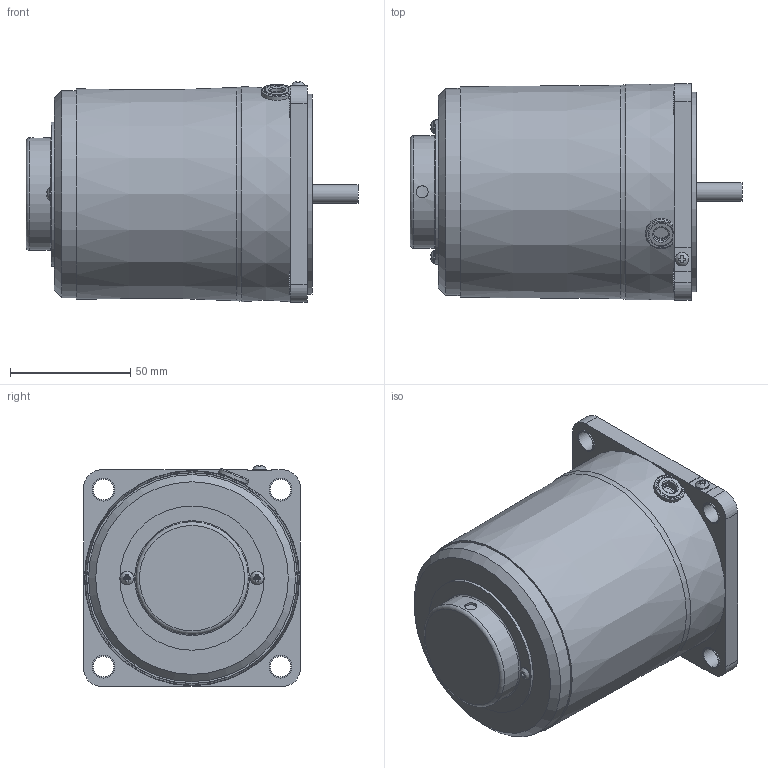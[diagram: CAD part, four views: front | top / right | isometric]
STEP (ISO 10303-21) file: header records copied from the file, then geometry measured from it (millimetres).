
FILE_DESCRIPTION(/* description */ (''),/* implementation_level */ '2;1');
FILE_NAME(/* name */ 'Y:\제품연구개발\3. 도면\3. 고객배포용\3D_홈페이지용\01-1 Standard AC SG Series\05-2 SPEED CONTROL INDUCTION(REVERSIBLE) MOTORS(S12_S24)\SG9I(R)40_-S12(S24)\SG9I(R)40G_-S12(24).stp',/* time_stamp */ '2023-12-07T13:18:35+09:00',/* author */ ('shyi1037'),/* organization */ (''),/* preprocessor_version */ 'ST-DEVELOPER v18.1',/* originating_system */ 'Autodesk Inventor 2022',/* authorisation */ '');
FILE_SCHEMA (('AUTOMOTIVE_DESIGN { 1 0 10303 214 3 1 1 }'));
Length unit declared in the file: millimetre
Products named in the file (1): SG9I(R)40G_-S12(24)
Bounding box: 137.9 x 90 x 91.76 mm (x, y, z)
Volume: 667472.8 mm3; surface area: 51743.2 mm2
Topology: 1 solids, 6 shells, 163 faces, 396 edges, 262 vertices
Faces by surface type: plane 101, cylinder 45, torus 10, cone 4, bspline 3
Full cylindrical faces by diameter (mm): 3 x2, 3.5 x2, 5 x1, 5.6 x3, 6 x1, 7.62 x1, 8.5 x4, 9.5 x4, 10 x1, 40 x1, 44.7 x1, 46.7 x1, 47.7 x1, 59.9 x1, 83 x1, 86 x1
Entity records: 5296 total; most frequent: CARTESIAN_POINT 1250, ORIENTED_EDGE 792, DIRECTION 787, EDGE_CURVE 396, AXIS2_PLACEMENT_3D 285, VERTEX_POINT 262, LINE 217, VECTOR 217
